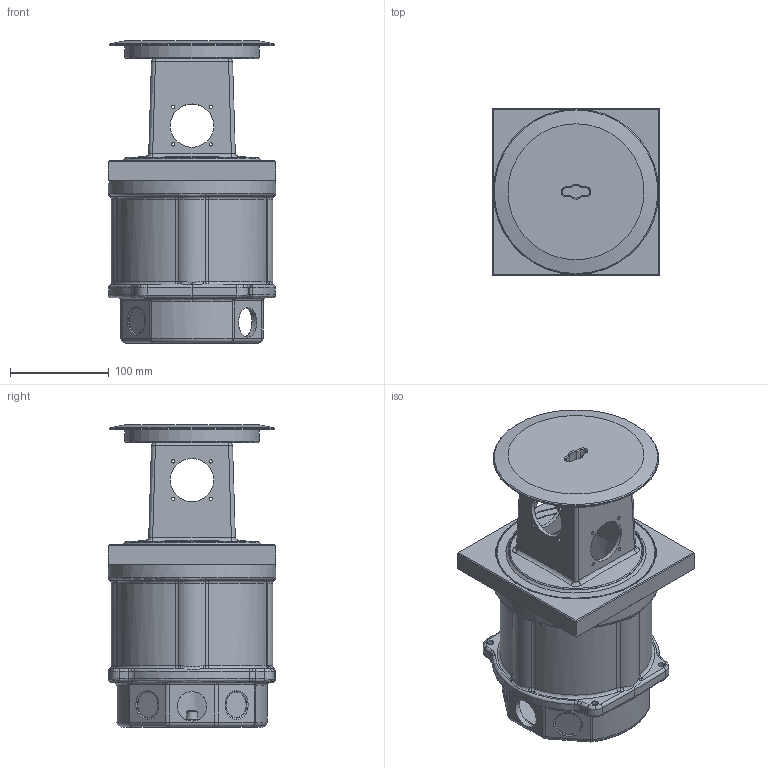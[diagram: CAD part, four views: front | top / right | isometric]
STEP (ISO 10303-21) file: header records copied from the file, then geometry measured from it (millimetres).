
FILE_DESCRIPTION(/* description */ (''),/* implementation_level */ '2;1');
FILE_NAME(/* name */ 'D:\LW_K\INVENTOR\Dummy Zeichnungen Bodendosen\Dummy Zeichnungen MASSO\MASSO_4000_Dummy.stp',/* time_stamp */ '2021-05-20T10:28:55+02:00',/* author */ ('mayrhofer'),/* organization */ (''),/* preprocessor_version */ 'ST-DEVELOPER v18.1',/* originating_system */ 'Autodesk Inventor 2021',/* authorisation */ '');
FILE_SCHEMA (('AUTOMOTIVE_DESIGN { 1 0 10303 214 3 1 1 }'));
Length unit declared in the file: millimetre
Products named in the file (6): MASSO_4000_Dummy; MASSO_4000_GEHÄUSE_3DINV; Rahmen MASSO_3DINV; Anschlagring_MASSO_AUSSEN_3DINV; MASSO_4000_Dummy_1; Deckel_MASSO_3DINV
Assembly tree (5 placements, depth 2):
  MASSO_4000_Dummy
    MASSO_4000_GEHÄUSE_3DINV
    Rahmen MASSO_3DINV
    Anschlagring_MASSO_AUSSEN_3DINV
    MASSO_4000_Dummy_1
    Deckel_MASSO_3DINV
Bounding box: 170 x 170 x 306.5 mm (x, y, z)
Volume: 1558981.6 mm3; surface area: 415054.3 mm2
Topology: 5 solids, 5 shells, 670 faces, 1678 edges, 1031 vertices
Faces by surface type: plane 245, bspline 175, cylinder 149, torus 52, cone 31, sphere 18
Full cylindrical faces by diameter (mm): 3.4 x16, 6.8 x4, 30 x3, 44 x4, 136 x2, 136.4 x1, 137.7 x1, 161.4 x1, 162 x1, 168 x1, 170 x1
Entity records: 28740 total; most frequent: CARTESIAN_POINT 13012, ORIENTED_EDGE 3320, DIRECTION 3062, EDGE_CURVE 1660, AXIS2_PLACEMENT_3D 1155, VERTEX_POINT 1031, EDGE_LOOP 759, LINE 752
